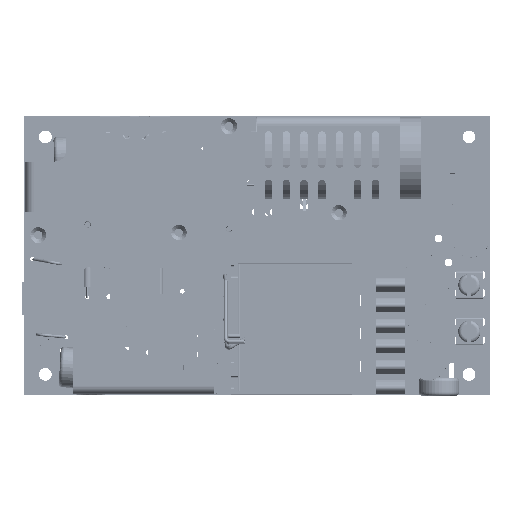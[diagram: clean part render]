
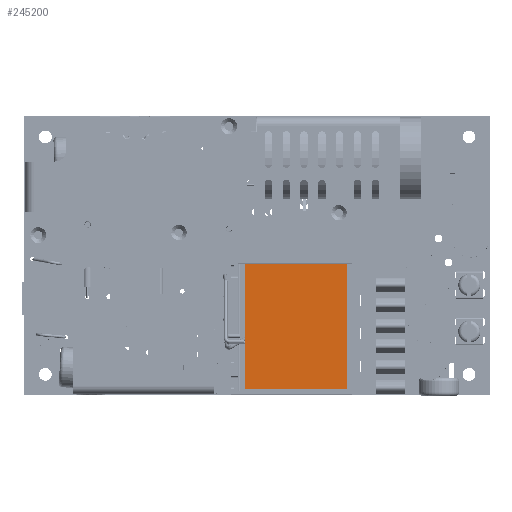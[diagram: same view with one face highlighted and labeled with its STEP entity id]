
A CAD part, top view. The second image highlights one B-rep face of the part: STEP entity #245200.
In plain terms, the highlighted planar face has unit normal (0, 0, 1).
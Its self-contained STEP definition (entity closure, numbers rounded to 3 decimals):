
#244220=CARTESIAN_POINT('',(21.25,35.,3.));
#244230=VERTEX_POINT('',#244220);
#244260=CARTESIAN_POINT('',(21.25,7.,3.));
#244270=DIRECTION('',(0.,1.,0.));
#244280=VECTOR('',#244270,1.);
#244290=LINE('',#244260,#244280);
#244300=CARTESIAN_POINT('',(21.25,7.,3.));
#244310=VERTEX_POINT('',#244300);
#244320=EDGE_CURVE('',#244310,#244230,#244290,.T.);
#244530=CARTESIAN_POINT('',(55.25,35.,3.));
#244540=VERTEX_POINT('',#244530);
#244570=CARTESIAN_POINT('',(21.25,35.,3.));
#244580=DIRECTION('',(1.,0.,0.));
#244590=VECTOR('',#244580,1.);
#244600=LINE('',#244570,#244590);
#244610=EDGE_CURVE('',#244230,#244540,#244600,.T.);
#244770=CARTESIAN_POINT('',(55.25,7.,3.));
#244780=VERTEX_POINT('',#244770);
#244810=CARTESIAN_POINT('',(55.25,35.,3.));
#244820=DIRECTION('',(0.,-1.,0.));
#244830=VECTOR('',#244820,1.);
#244840=LINE('',#244810,#244830);
#244850=EDGE_CURVE('',#244540,#244780,#244840,.T.);
#244980=CARTESIAN_POINT('',(55.25,7.,3.));
#244990=DIRECTION('',(-1.,0.,0.));
#245000=VECTOR('',#244990,1.);
#245010=LINE('',#244980,#245000);
#245020=EDGE_CURVE('',#244780,#244310,#245010,.T.);
#245090=CARTESIAN_POINT('',(0.,0.,3.));
#245100=DIRECTION('',(0.,0.,1.));
#245110=DIRECTION('',(1.,0.,0.));
#245120=AXIS2_PLACEMENT_3D('',#245090,#245100,#245110);
#245130=PLANE('',#245120);
#245140=ORIENTED_EDGE('',*,*,#244320,.F.);
#245150=ORIENTED_EDGE('',*,*,#244610,.F.);
#245160=ORIENTED_EDGE('',*,*,#244850,.F.);
#245170=ORIENTED_EDGE('',*,*,#245020,.F.);
#245180=EDGE_LOOP('',(#245170,#245160,#245150,#245140));
#245190=FACE_OUTER_BOUND('',#245180,.T.);
#245200=ADVANCED_FACE('',(#245190),#245130,.T.);
